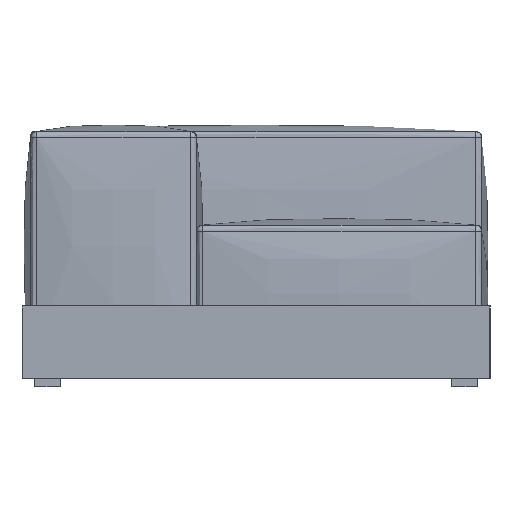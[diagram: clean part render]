
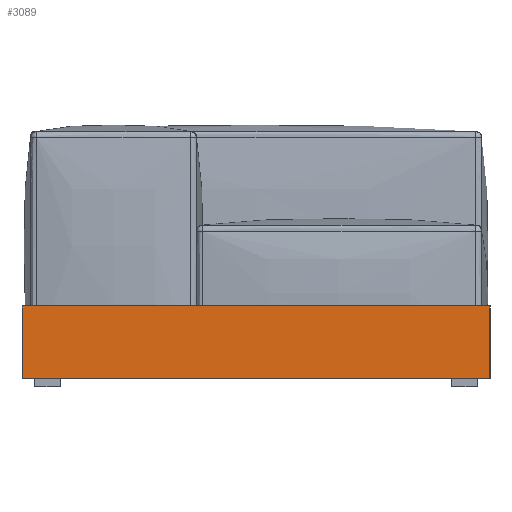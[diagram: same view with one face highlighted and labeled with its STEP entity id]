
A CAD part, left-side view. The second image highlights one B-rep face of the part: STEP entity #3089.
In plain terms, the highlighted planar face has unit normal (-1, 0, 0).
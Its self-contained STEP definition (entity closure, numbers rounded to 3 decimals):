
#108=PLANE('',#3447);
#232=LINE('',#13447,#440);
#233=LINE('',#13449,#441);
#234=LINE('',#13451,#442);
#235=LINE('',#13452,#443);
#440=VECTOR('',#3972,10.);
#441=VECTOR('',#3973,10.);
#442=VECTOR('',#3974,10.);
#443=VECTOR('',#3975,10.);
#933=FACE_OUTER_BOUND('',#1159,.T.);
#1159=EDGE_LOOP('',(#2571,#2572,#2573,#2574));
#1499=VERTEX_POINT('',#13445);
#1500=VERTEX_POINT('',#13446);
#1501=VERTEX_POINT('',#13448);
#1502=VERTEX_POINT('',#13450);
#1875=EDGE_CURVE('',#1499,#1500,#232,.T.);
#1876=EDGE_CURVE('',#1499,#1501,#233,.T.);
#1877=EDGE_CURVE('',#1502,#1501,#234,.T.);
#1878=EDGE_CURVE('',#1500,#1502,#235,.T.);
#2571=ORIENTED_EDGE('',*,*,#1875,.F.);
#2572=ORIENTED_EDGE('',*,*,#1876,.T.);
#2573=ORIENTED_EDGE('',*,*,#1877,.F.);
#2574=ORIENTED_EDGE('',*,*,#1878,.F.);
#3089=ADVANCED_FACE('',(#933),#108,.T.);
#3447=AXIS2_PLACEMENT_3D('',#13444,#3970,#3971);
#3970=DIRECTION('center_axis',(-1.,0.,0.));
#3971=DIRECTION('ref_axis',(0.,-1.,0.));
#3972=DIRECTION('',(0.,1.,0.));
#3973=DIRECTION('',(0.,0.,1.));
#3974=DIRECTION('',(0.,-1.,0.));
#3975=DIRECTION('',(0.,0.,1.));
#13444=CARTESIAN_POINT('Origin',(-1300.,550.,0.));
#13445=CARTESIAN_POINT('',(-1300.,-550.,0.));
#13446=CARTESIAN_POINT('',(-1300.,550.,0.));
#13447=CARTESIAN_POINT('',(-1300.,-550.,0.));
#13448=CARTESIAN_POINT('',(-1300.,-550.,170.));
#13449=CARTESIAN_POINT('',(-1300.,-550.,0.));
#13450=CARTESIAN_POINT('',(-1300.,550.,170.));
#13451=CARTESIAN_POINT('',(-1300.,-550.,170.));
#13452=CARTESIAN_POINT('',(-1300.,550.,0.));
